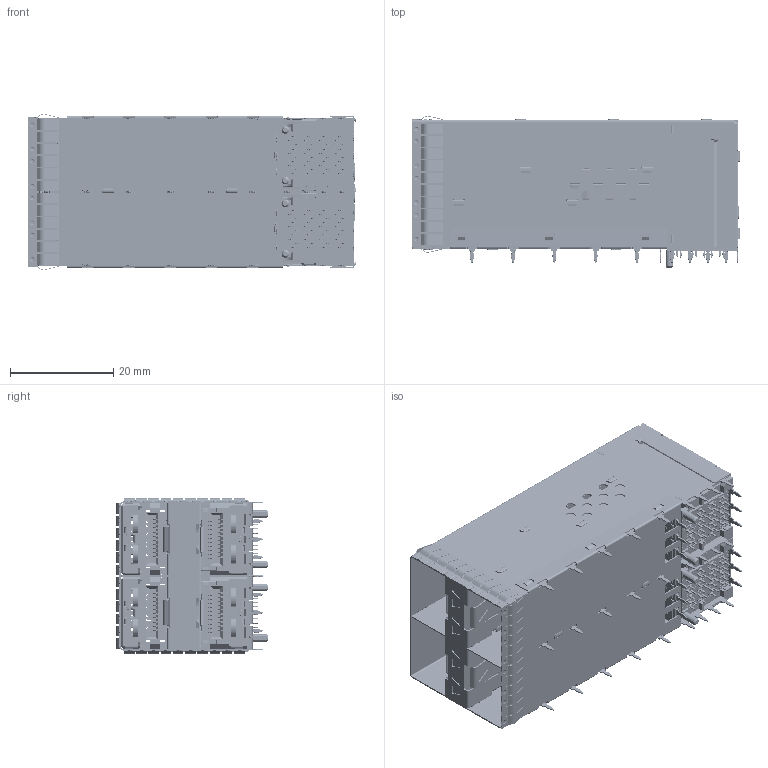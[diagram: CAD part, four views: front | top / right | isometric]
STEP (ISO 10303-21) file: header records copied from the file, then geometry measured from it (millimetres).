
FILE_DESCRIPTION (( 'STEP AP214' ), '1' );
FILE_NAME ('SBB0-0000310100-0000-X.STEP', '2021-04-08T01:25:44', ( '' ), ( '' ), 'SwSTEP 2.0', 'SolidWorks 2012', '' );
FILE_SCHEMA (( 'AUTOMOTIVE_DESIGN' ));
Length unit declared in the file: millimetre
Products named in the file (1): SBB0-0000310100-0000-X
Bounding box: 63.5 x 29.5 x 30.25 mm (x, y, z)
Volume: 10168.9 mm3; surface area: 46819.1 mm2
Topology: 381 solids, 381 shells, 18489 faces, 49409 edges, 31554 vertices
Faces by surface type: plane 10773, cylinder 4998, bspline 1850, torus 700, sphere 120, cone 48
Entity records: 816936 total; most frequent: CARTESIAN_POINT 147453, ORIENTED_EDGE 98818, DIRECTION 95343, EDGE_CURVE 49409, LINE 31863, VECTOR 31863, AXIS2_PLACEMENT_3D 31740, VERTEX_POINT 31554
